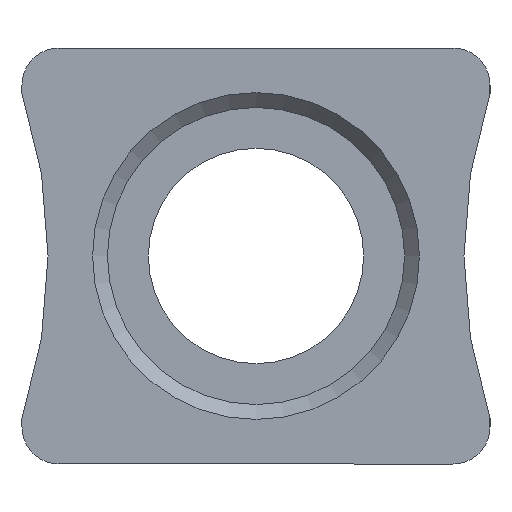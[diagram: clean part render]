
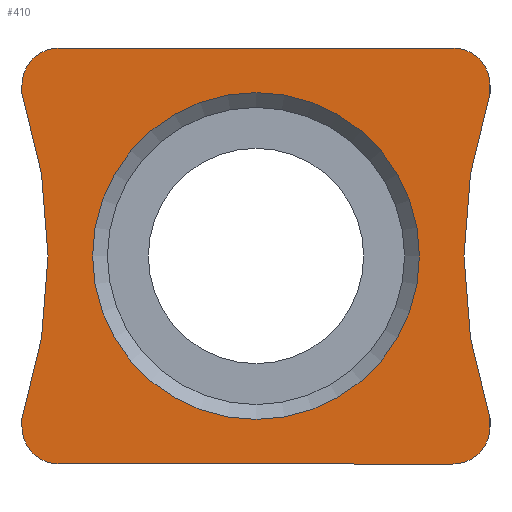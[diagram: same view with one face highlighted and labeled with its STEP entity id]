
A CAD part, left-side view. The second image highlights one B-rep face of the part: STEP entity #410.
In plain terms, the highlighted planar face has unit normal (-1, 0, 0).
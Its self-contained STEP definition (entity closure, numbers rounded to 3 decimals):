
#1 = EDGE_CURVE ( 'NONE', #107, #480, #856, .T. ) ;
#2 = CARTESIAN_POINT ( 'NONE',  ( 0., 3.15, 2.8 ) ) ;
#16 = FACE_OUTER_BOUND ( 'NONE', #79, .T. ) ;
#23 = LINE ( 'NONE', #803, #95 ) ;
#26 = DIRECTION ( 'NONE',  ( -1., 0., 0. ) ) ;
#37 = DIRECTION ( 'NONE',  ( -1., 0., 0. ) ) ;
#45 = CARTESIAN_POINT ( 'NONE',  ( 0., 2.65, -2.8 ) ) ;
#53 = EDGE_CURVE ( 'NONE', #213, #552, #258, .T. ) ;
#68 = EDGE_CURVE ( 'NONE', #467, #145, #934, .T. ) ;
#72 = ORIENTED_EDGE ( 'NONE', *, *, #405, .T. ) ;
#75 = DIRECTION ( 'NONE',  ( -1., 0., 0. ) ) ;
#77 = EDGE_CURVE ( 'NONE', #877, #455, #253, .T. ) ;
#79 = EDGE_LOOP ( 'NONE', ( #290, #224, #723, #72, #487, #331, #348, #918, #223, #853, #532, #594 ) ) ;
#81 = CARTESIAN_POINT ( 'NONE',  ( 0., 3.15, 2.186 ) ) ;
#95 = VECTOR ( 'NONE', #792, 1000. ) ;
#107 = VERTEX_POINT ( 'NONE', #538 ) ;
#115 = CIRCLE ( 'NONE', #539, 0.5 ) ;
#119 = CIRCLE ( 'NONE', #561, 0.5 ) ;
#124 = VECTOR ( 'NONE', #1058, 1000. ) ;
#133 = EDGE_CURVE ( 'NONE', #1089, #557, #959, .T. ) ;
#145 = VERTEX_POINT ( 'NONE', #81 ) ;
#151 = CARTESIAN_POINT ( 'NONE',  ( 0., -3.15, 2.8 ) ) ;
#179 = CARTESIAN_POINT ( 'NONE',  ( 0., -9.8, 0. ) ) ;
#184 = CARTESIAN_POINT ( 'NONE',  ( 0., 3.15, 2.3 ) ) ;
#187 = DIRECTION ( 'NONE',  ( 0., 0., -1. ) ) ;
#206 = DIRECTION ( 'NONE',  ( 0., 0., -1. ) ) ;
#213 = VERTEX_POINT ( 'NONE', #704 ) ;
#223 = ORIENTED_EDGE ( 'NONE', *, *, #310, .F. ) ;
#224 = ORIENTED_EDGE ( 'NONE', *, *, #651, .T. ) ;
#243 = AXIS2_PLACEMENT_3D ( 'NONE', #1003, #26, #728 ) ;
#253 = CIRCLE ( 'NONE', #558, 0.5 ) ;
#258 = LINE ( 'NONE', #151, #563 ) ;
#270 = CARTESIAN_POINT ( 'NONE',  ( 0., 2.65, 2.3 ) ) ;
#290 = ORIENTED_EDGE ( 'NONE', *, *, #1, .F. ) ;
#296 = CIRCLE ( 'NONE', #576, 7. ) ;
#298 = CARTESIAN_POINT ( 'NONE',  ( 0., 3.15, 2.8 ) ) ;
#310 = EDGE_CURVE ( 'NONE', #896, #455, #23, .T. ) ;
#316 = VECTOR ( 'NONE', #847, 1000. ) ;
#331 = ORIENTED_EDGE ( 'NONE', *, *, #68, .F. ) ;
#332 = DIRECTION ( 'NONE',  ( 0., 0., 1. ) ) ;
#341 = DIRECTION ( 'NONE',  ( 0., 0., -1. ) ) ;
#346 = DIRECTION ( 'NONE',  ( -1., 0., 0. ) ) ;
#348 = ORIENTED_EDGE ( 'NONE', *, *, #626, .F. ) ;
#374 = DIRECTION ( 'NONE',  ( 0., 0., 1. ) ) ;
#382 = DIRECTION ( 'NONE',  ( -1., 0., 0. ) ) ;
#405 = EDGE_CURVE ( 'NONE', #1089, #933, #119, .T. ) ;
#410 = ADVANCED_FACE ( 'NONE', ( #919, #16 ), #1093, .F. ) ;
#426 = VECTOR ( 'NONE', #460, 1000. ) ;
#455 = VERTEX_POINT ( 'NONE', #45 ) ;
#460 = DIRECTION ( 'NONE',  ( 0., 0., -1. ) ) ;
#467 = VERTEX_POINT ( 'NONE', #699 ) ;
#472 = ORIENTED_EDGE ( 'NONE', *, *, #908, .T. ) ;
#480 = VERTEX_POINT ( 'NONE', #923 ) ;
#486 = CIRCLE ( 'NONE', #916, 0.5 ) ;
#487 = ORIENTED_EDGE ( 'NONE', *, *, #1031, .F. ) ;
#492 = DIRECTION ( 'NONE',  ( 0., 0., -1. ) ) ;
#505 = CARTESIAN_POINT ( 'NONE',  ( 0., 3.15, 2.8 ) ) ;
#516 = CARTESIAN_POINT ( 'NONE',  ( 0., -3.15, -2.3 ) ) ;
#519 = DIRECTION ( 'NONE',  ( 0., 0., -1. ) ) ;
#528 = CARTESIAN_POINT ( 'NONE',  ( 0., 2.65, 2.8 ) ) ;
#532 = ORIENTED_EDGE ( 'NONE', *, *, #53, .F. ) ;
#536 = CARTESIAN_POINT ( 'NONE',  ( 0., 0., 0. ) ) ;
#538 = CARTESIAN_POINT ( 'NONE',  ( 0., -3.15, 2.3 ) ) ;
#539 = AXIS2_PLACEMENT_3D ( 'NONE', #567, #979, #206 ) ;
#543 = CARTESIAN_POINT ( 'NONE',  ( 0., -2.65, 2.3 ) ) ;
#552 = VERTEX_POINT ( 'NONE', #516 ) ;
#557 = VERTEX_POINT ( 'NONE', #724 ) ;
#558 = AXIS2_PLACEMENT_3D ( 'NONE', #838, #37, #341 ) ;
#561 = AXIS2_PLACEMENT_3D ( 'NONE', #270, #346, #519 ) ;
#563 = VECTOR ( 'NONE', #187, 1000. ) ;
#567 = CARTESIAN_POINT ( 'NONE',  ( 0., -2.65, -2.3 ) ) ;
#576 = AXIS2_PLACEMENT_3D ( 'NONE', #179, #75, #374 ) ;
#594 = ORIENTED_EDGE ( 'NONE', *, *, #771, .F. ) ;
#619 = CARTESIAN_POINT ( 'NONE',  ( 0., 0., -2.2 ) ) ;
#626 = EDGE_CURVE ( 'NONE', #877, #467, #1019, .T. ) ;
#647 = DIRECTION ( 'NONE',  ( 0., 0., -1. ) ) ;
#651 = EDGE_CURVE ( 'NONE', #107, #557, #486, .T. ) ;
#699 = CARTESIAN_POINT ( 'NONE',  ( 0., 3.15, -2.186 ) ) ;
#704 = CARTESIAN_POINT ( 'NONE',  ( 0., -3.15, -2.186 ) ) ;
#723 = ORIENTED_EDGE ( 'NONE', *, *, #133, .F. ) ;
#724 = CARTESIAN_POINT ( 'NONE',  ( 0., -2.65, 2.8 ) ) ;
#728 = DIRECTION ( 'NONE',  ( 0., 0., 1. ) ) ;
#731 = CARTESIAN_POINT ( 'NONE',  ( 0., 3.15, -2.3 ) ) ;
#734 = AXIS2_PLACEMENT_3D ( 'NONE', #915, #1020, #492 ) ;
#771 = EDGE_CURVE ( 'NONE', #480, #213, #296, .T. ) ;
#776 = DIRECTION ( 'NONE',  ( 1., 0., 0. ) ) ;
#777 = VECTOR ( 'NONE', #332, 1000. ) ;
#792 = DIRECTION ( 'NONE',  ( 0., 1., 0. ) ) ;
#803 = CARTESIAN_POINT ( 'NONE',  ( 0., 3.15, -2.8 ) ) ;
#810 = CIRCLE ( 'NONE', #734, 2.2 ) ;
#829 = LINE ( 'NONE', #505, #316 ) ;
#838 = CARTESIAN_POINT ( 'NONE',  ( 0., 2.65, -2.3 ) ) ;
#842 = DIRECTION ( 'NONE',  ( 0., 0., -1. ) ) ;
#847 = DIRECTION ( 'NONE',  ( 0., 0., 1. ) ) ;
#850 = CARTESIAN_POINT ( 'NONE',  ( 0., -3.15, 2.8 ) ) ;
#853 = ORIENTED_EDGE ( 'NONE', *, *, #1073, .T. ) ;
#856 = LINE ( 'NONE', #850, #426 ) ;
#857 = CARTESIAN_POINT ( 'NONE',  ( 0., -2.65, -2.8 ) ) ;
#877 = VERTEX_POINT ( 'NONE', #731 ) ;
#896 = VERTEX_POINT ( 'NONE', #857 ) ;
#902 = AXIS2_PLACEMENT_3D ( 'NONE', #536, #776, #842 ) ;
#908 = EDGE_CURVE ( 'NONE', #1099, #1099, #810, .T. ) ;
#915 = CARTESIAN_POINT ( 'NONE',  ( 0., 0., 0. ) ) ;
#916 = AXIS2_PLACEMENT_3D ( 'NONE', #543, #382, #647 ) ;
#918 = ORIENTED_EDGE ( 'NONE', *, *, #77, .T. ) ;
#919 = FACE_BOUND ( 'NONE', #920, .T. ) ;
#920 = EDGE_LOOP ( 'NONE', ( #472 ) ) ;
#923 = CARTESIAN_POINT ( 'NONE',  ( 0., -3.15, 2.186 ) ) ;
#933 = VERTEX_POINT ( 'NONE', #184 ) ;
#934 = CIRCLE ( 'NONE', #243, 7. ) ;
#959 = LINE ( 'NONE', #2, #124 ) ;
#979 = DIRECTION ( 'NONE',  ( -1., 0., 0. ) ) ;
#1003 = CARTESIAN_POINT ( 'NONE',  ( 0., 9.8, 0. ) ) ;
#1019 = LINE ( 'NONE', #298, #777 ) ;
#1020 = DIRECTION ( 'NONE',  ( 1., 0., 0. ) ) ;
#1031 = EDGE_CURVE ( 'NONE', #145, #933, #829, .T. ) ;
#1058 = DIRECTION ( 'NONE',  ( 0., -1., 0. ) ) ;
#1073 = EDGE_CURVE ( 'NONE', #896, #552, #115, .T. ) ;
#1089 = VERTEX_POINT ( 'NONE', #528 ) ;
#1093 = PLANE ( 'NONE',  #902 ) ;
#1099 = VERTEX_POINT ( 'NONE', #619 ) ;
